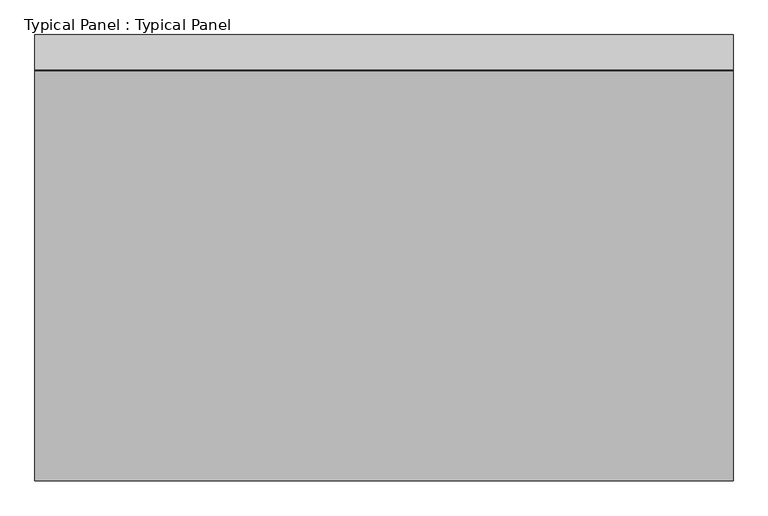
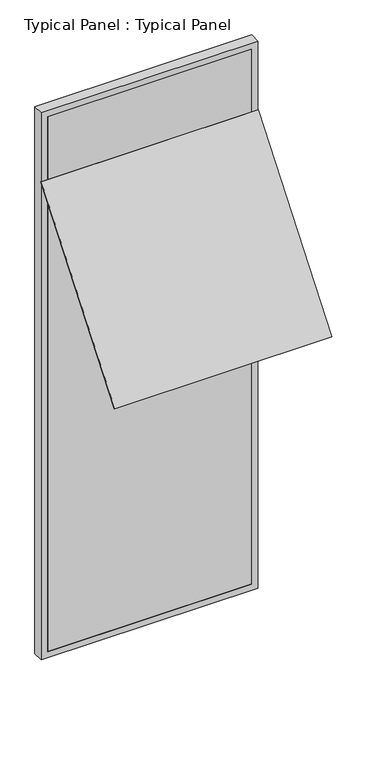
"""IFC4 building model written with IfcOpenShell, lengths in millimetres: plate geometry, Typical Panel : Typical Panel."""

import ifcopenshell
import ifcopenshell.guid

model = None  # the IFC model being written
_history = None  # IfcOwnerHistory: only IFC2X3 demands one
_inside = {}  # id of a spatial element -> (the spatial element, [elements in it])
_under = {}  # id of a project, library or spatial element -> (it, [spatial elements below it])
_declared = {}  # id of a project -> (the project, [libraries it declares])
_typed = {}  # id of a type object -> (the type object, [elements of that type])
_made_of = {}  # id of a material, layer set ... -> (it, [elements and type objects made of it])


def new_model(schema):
    """Start an empty IFC model of exactly this schema.

    Asked for "IFC4X3", IfcOpenShell would pick the latest addendum, in which some entities
    have other attributes; the version numbers below select the first issue.
    IFC2X3 requires an IfcOwnerHistory on every rooted entity: one is made here for all.
    """
    global model, _history
    if schema == "IFC4X3":
        model = ifcopenshell.file(schema_version=(4, 3, 0, 0))
    else:
        model = ifcopenshell.file(schema=schema)
    _inside.clear()
    _under.clear()
    _declared.clear()
    _typed.clear()
    _made_of.clear()
    _history = None
    if model.schema == "IFC2X3":
        org = make("IfcOrganization", Name="unknown")
        user = make(
            "IfcPersonAndOrganization",
            ThePerson=make("IfcPerson", FamilyName="unknown"),
            TheOrganization=org,
        )
        app = make(
            "IfcApplication",
            ApplicationDeveloper=org,
            Version="unknown",
            ApplicationFullName="unknown",
            ApplicationIdentifier="unknown",
        )
        _history = make(
            "IfcOwnerHistory",
            OwningUser=user,
            OwningApplication=app,
            ChangeAction="ADDED",
            CreationDate=0,
        )
    return model


def make(cls, **values):
    """One entity of the class cls with the attributes given. An attribute that is None is left unset."""
    return model.create_entity(
        cls, **{name: value for name, value in values.items() if value is not None}
    )


def rooted(cls, **values):
    """An entity with a GlobalId (a new one), such as an element, a storey or a relation."""
    return make(cls, GlobalId=ifcopenshell.guid.new(), OwnerHistory=_history, **values)


def si_unit(unit_type, name, prefix=None):
    """IfcSIUnit, for example si_unit("LENGTHUNIT", "METRE", prefix="MILLI")."""
    return make("IfcSIUnit", UnitType=unit_type, Prefix=prefix, Name=name)


def assignment(units):
    """IfcUnitAssignment: the units of a project."""
    return None if units is None else make("IfcUnitAssignment", Units=units)


def point(xyz):
    """IfcCartesianPoint."""
    return None if xyz is None else make("IfcCartesianPoint", Coordinates=xyz)


def direction(xyz):
    """IfcDirection."""
    return None if xyz is None else make("IfcDirection", DirectionRatios=xyz)


def frame(location, z_axis=None, x_axis=None):
    """IfcAxis2Placement3D, a coordinate frame: its origin and axes. An axis left out is left unset."""
    return make(
        "IfcAxis2Placement3D",
        Location=point(location),
        Axis=direction(z_axis),
        RefDirection=direction(x_axis),
    )


def origin():
    """The frame at (0, 0, 0) with its axes left unset."""
    return frame((0.0, 0.0, 0.0))


def place(relative_to, where):
    """IfcLocalPlacement: puts the frame where relative to a parent placement (None: the world)."""
    return make(
        "IfcLocalPlacement", PlacementRelTo=relative_to, RelativePlacement=where
    )


def context(
    kind, dimensions, precision=None, world=None, true_north=None, identifier=None
):
    """IfcGeometricRepresentationContext, for example the 3D "Model" context."""
    return make(
        "IfcGeometricRepresentationContext",
        ContextIdentifier=identifier,
        ContextType=kind,
        CoordinateSpaceDimension=dimensions,
        Precision=precision,
        WorldCoordinateSystem=world,
        TrueNorth=true_north,
    )


def project(units=None, contexts=None):
    """IfcProject with its units and contexts."""
    return rooted(
        "IfcProject",
        Name="project",
        RepresentationContexts=contexts,
        UnitsInContext=assignment(units),
    )


def spatial(cls, under=None, at=None, **own):
    """A site, building, storey or space (cls), placed at a placement, below another one or the project."""
    s = rooted(cls, ObjectPlacement=at, **own)
    if under is not None:
        _under.setdefault(under.id(), (under, []))[1].append(s)
    return s


def polyline(points):
    """IfcPolyline through the points."""
    return make("IfcPolyline", Points=[point(p) for p in points])


def outline(outer, holes=None, kind="AREA"):
    """IfcArbitraryClosedProfileDef: a profile drawn as a closed curve; with holes, ...WithVoids."""
    if holes is None:
        return make("IfcArbitraryClosedProfileDef", ProfileType=kind, OuterCurve=outer)
    return make(
        "IfcArbitraryProfileDefWithVoids",
        ProfileType=kind,
        OuterCurve=outer,
        InnerCurves=holes,
    )


def extrude(swept, where, along, depth):
    """IfcExtrudedAreaSolid: the profile swept, set in the frame where, extruded along a direction by depth."""
    return make(
        "IfcExtrudedAreaSolid",
        SweptArea=swept,
        Position=where,
        ExtrudedDirection=direction(along),
        Depth=depth,
    )


def shape(context_of_items, identifier, shape_type, items):
    """IfcShapeRepresentation: the items that make up one representation, for example the "Body"."""
    return make(
        "IfcShapeRepresentation",
        ContextOfItems=context_of_items,
        RepresentationIdentifier=identifier,
        RepresentationType=shape_type,
        Items=items,
    )


def source(mapping_origin, context_of_items, identifier, shape_type, items):
    """IfcRepresentationMap: a shape defined once, which mapped items show again and again."""
    return make(
        "IfcRepresentationMap",
        MappingOrigin=mapping_origin,
        MappedRepresentation=shape(context_of_items, identifier, shape_type, items),
    )


def transform(
    local_origin,
    x_axis=None,
    y_axis=None,
    z_axis=None,
    scale=None,
    scale2=None,
    scale3=None,
    uniform=True,
):
    """IfcCartesianTransformationOperator3D, or its non-uniform kind. x_axis, y_axis, z_axis: its Axis1, 2, 3."""
    if uniform:
        return make(
            "IfcCartesianTransformationOperator3D",
            Axis1=direction(x_axis),
            Axis2=direction(y_axis),
            LocalOrigin=point(local_origin),
            Scale=scale,
            Axis3=direction(z_axis),
        )
    return make(
        "IfcCartesianTransformationOperator3DnonUniform",
        Axis1=direction(x_axis),
        Axis2=direction(y_axis),
        LocalOrigin=point(local_origin),
        Scale=scale,
        Axis3=direction(z_axis),
        Scale2=scale2,
        Scale3=scale3,
    )


def mapped(mapping_source, mapping_target):
    """IfcMappedItem: shows the shape of a source again, moved by a transform."""
    return make(
        "IfcMappedItem", MappingSource=mapping_source, MappingTarget=mapping_target
    )


def made_of(thing, what):
    """Note that an element or type object is made of a material, layer set ...; save() writes the relation."""
    if what is not None:
        _made_of.setdefault(what.id(), (what, []))[1].append(thing)
    return thing


def element(
    cls,
    number,
    at=None,
    inside=None,
    cuts=None,
    type_object=None,
    material=None,
    context=None,
    identifier="Body",
    shape_type=None,
    held_by="IfcProductDefinitionShape",
    body=None,
    shapes=None,
    **own,
):
    """One element of the class cls, such as IfcWall. Its Tag is "e" and its number.

    at: its placement. inside: the storey or other place that contains it. cuts: it is an
    opening in that element (IfcRelVoidsElement). A single representation is given by context,
    identifier, shape_type and body (its items); several are given by shapes. held_by: the class
    of the entity that holds the representations. save() writes the other relations.
    """
    e = rooted(cls, Tag="e%d" % number, ObjectPlacement=at, **own)
    if body is not None:
        shapes = [shape(context, identifier, shape_type, body)]
    if shapes is not None:
        e.Representation = make(held_by, Representations=shapes)
    if inside is not None:
        _inside.setdefault(inside.id(), (inside, []))[1].append(e)
    if cuts is not None:
        rooted(
            "IfcRelVoidsElement", RelatingBuildingElement=cuts, RelatedOpeningElement=e
        )
    if type_object is not None:
        _typed.setdefault(type_object.id(), (type_object, []))[1].append(e)
    return made_of(e, material)


def aggregate(whole, parts):
    """IfcRelAggregates: a whole, such as a stair, and the parts it consists of."""
    return rooted("IfcRelAggregates", RelatingObject=whole, RelatedObjects=parts)


def save(model, path):
    """Write the relations noted so far, then the file.

    IfcRelAggregates (storeys below a building ...), IfcRelContainedInSpatialStructure (elements
    in a storey), IfcRelDefinesByType, IfcRelAssociatesMaterial and IfcRelDeclares: one each for
    every whole, place, type object, material and project.
    """
    for whole, parts in _under.values():
        aggregate(whole, parts)
    for where, things in _inside.values():
        rooted(
            "IfcRelContainedInSpatialStructure",
            RelatedElements=things,
            RelatingStructure=where,
        )
    for kind, things in _typed.values():
        rooted("IfcRelDefinesByType", RelatedObjects=things, RelatingType=kind)
    for what, things in _made_of.values():
        rooted("IfcRelAssociatesMaterial", RelatedObjects=things, RelatingMaterial=what)
    for by, libraries in _declared.values():
        rooted("IfcRelDeclares", RelatingContext=by, RelatedDefinitions=libraries)
    model.write(path)


def typical_panel_typical_panel_92cceb4c(model_context):
    return source(origin(), model_context, "Body", "SweptSolid", [
        extrude(outline(polyline([(0.0, -9.9999999), (0.0, 0.0), (1500.0, 0.0), (1500.0, -9.9999999), (0.0, -9.9999999)])), frame((750.0, -885.3959097, 2373.1446223), z_axis=(0.0, 0.6156614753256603, 0.7880107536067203), x_axis=(-1.0, 0.0, 0.0)), (0.0, 0.0, 1.0), 1430.0),
        extrude(outline(polyline([(0.0, -750.0), (0.0, 750.0), (4000.0, 750.0), (4000.0, -750.0), (0.0, -750.0)]), holes=[polyline([(45.0, 705.0), (45.0, -705.0), (3955.0, -705.0), (3955.0, 705.0), (45.0, 705.0)])]), frame((0.0, -1.5797986, 0.0), z_axis=(0.0, 1.0, 0.0), x_axis=(0.0, 0.0, 1.0)), (0.0, 0.0, 1.0), 75.0),
        extrude(outline(polyline([(705.0, -1.5797986), (-705.0, -1.5797986), (-705.0, 13.4202014), (705.0, 13.4202014), (705.0, -1.5797986)])), frame((0.0, 0.0, 45.0), z_axis=(0.0, 0.0, 1.0), x_axis=(1.0, 0.0, 0.0)), (0.0, 0.0, 1.0), 3910.0),
    ])


if __name__ == "__main__":
    model = new_model("IFC4")
    model_context = context("Model", 3, world=origin())
    ifc_project = project(units=[si_unit("LENGTHUNIT", "METRE", prefix="MILLI")], contexts=[model_context])
    site = spatial("IfcSite", under=ifc_project)
    building = spatial("IfcBuilding", under=site)
    placement = place(None, origin())
    typical_panel_typical_panel_shape = typical_panel_typical_panel_92cceb4c(model_context)
    element("IfcPlate", 1, ObjectType="Typical Panel : Typical Panel", at=placement, inside=building, context=model_context, shape_type="MappedRepresentation", body=[
        mapped(typical_panel_typical_panel_shape, transform((0.0, 0.0, 0.0), x_axis=(1.0, 0.0, 0.0), y_axis=(0.0, 1.0, 0.0), z_axis=(0.0, 0.0, 1.0))),
    ])
    save(model, "model.ifc")
